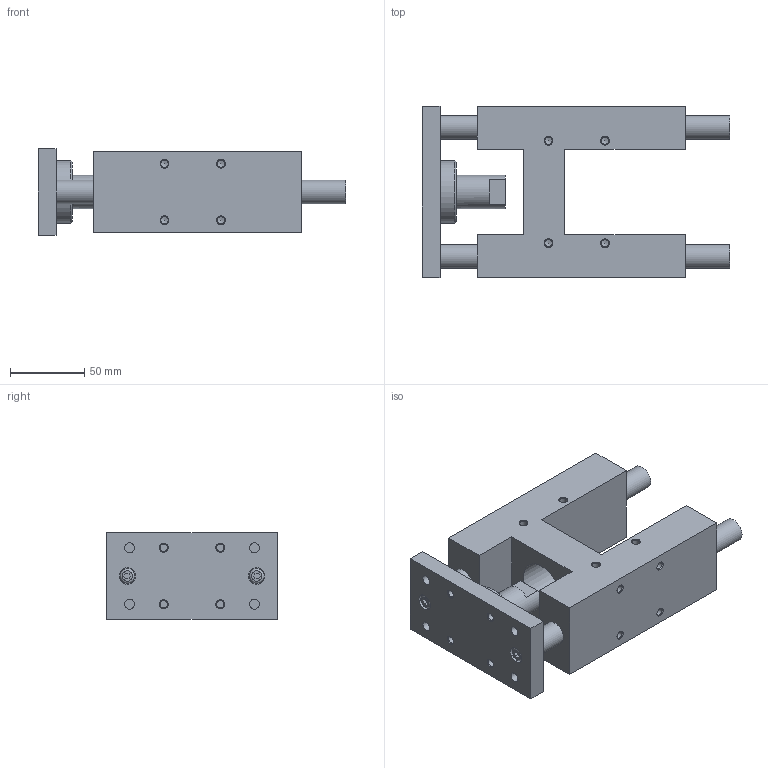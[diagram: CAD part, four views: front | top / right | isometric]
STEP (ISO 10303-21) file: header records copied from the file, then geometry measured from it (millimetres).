
FILE_DESCRIPTION( ( 'STEP AP214' ), '1' );
FILE_NAME( 'p:/temp/worker_86/temp/exporttempdir_5984_3_EkCDK/format_1/1320.40.0.GLB(0).stp', '2021-02-04T13:55:24', ( 'License CC BY-ND 4.0' ), ( 'CADENAS' ), ' ', 'PARTsolutions', ' ' );
FILE_SCHEMA( ( 'AUTOMOTIVE_DESIGN { 1 0 10303 214 1 1 1 1 }' ) );
Length unit declared in the file: millimetre
Products named in the file (1): _1320.40.0.GLB(0)
Bounding box: 207 x 115 x 58 mm (x, y, z)
Volume: 624470.4 mm3; surface area: 93637.7 mm2
Topology: 1 solids, 1 shells, 132 faces, 316 edges, 202 vertices
Faces by surface type: plane 50, cone 41, cylinder 39, torus 2
Full cylindrical faces by diameter (mm): 4.917 x20, 6.6 x4, 10 x2, 11 x6, 16 x4, 22.353 x1, 35 x1, 42.222 x1
Entity records: 4280 total; most frequent: DIRECTION 574, CARTESIAN_POINT 517, ORIENTED_EDGE 400, EDGE_LOOP 250, AXIS2_PLACEMENT_3D 241, EDGE_CURVE 200, VERTEX_POINT 184, FACE_OUTER_BOUND 173
